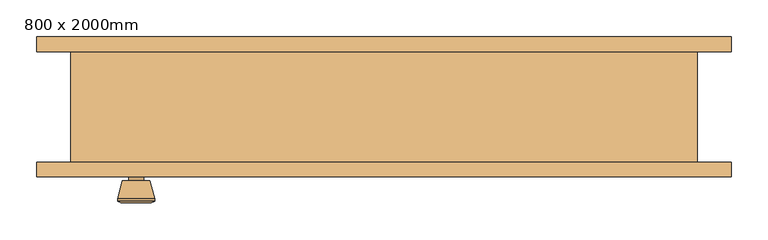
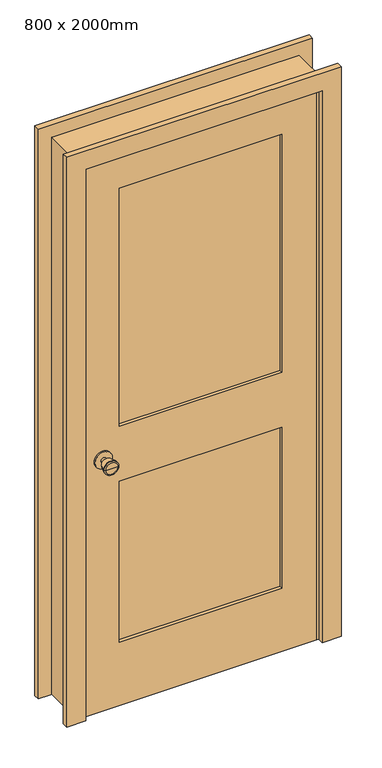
"""IFC4 building model written with IfcOpenShell, lengths in millimetres: door geometry, M_Dveře, vnitřní, jednokřídlé, dvě části, panel, dřevo : 800 x 2000mm."""

from ifc_helpers import new_model, si_unit, point, frame, frame_2d, origin, place, context, project, spatial, polyline, circle_curve, trimmed, segment, composite_curve, outline, extrude, faceted_brep, source, transform, mapped, element, save
from ifc_brep_helpers import plane_surface, cylinder_surface, revolved_surface, advanced_brep


def door_800_x_2000mm_7a4eaae7(model_context):
    return source(origin(), model_context, "Body", "SolidModel", [
        advanced_brep(
        [(-336.5, -30.825, 914.4), (-346.5, -30.825, 914.4), (-326.5, -30.825, 914.4), (-316.0241324, 18.175, 914.4), (-356.9758676, 18.175, 914.4), (-336.5, 18.175, 914.4), (-311.5, 16.3471319, 914.4), (-361.5, 16.3471319, 914.4), (-311.5, 12.8834537, 914.4), (-361.5, 12.8834537, 914.4), (-317.863764, -11.825, 914.4), (-355.136236, -11.825, 914.4), (-326.5, -11.825, 914.4), (-346.5, -11.825, 914.4)],
        [
            (0, 1),
            (1, 2, circle_curve(frame((-336.5, -30.825, 914.4), z_axis=(0.0, -1.0, 0.0), x_axis=(-1.0, 0.0, 0.0)), 10.0)),
            (2, 0),
            (2, 1, circle_curve(frame((-336.5, -30.825, 914.4), z_axis=(0.0, -1.0, 0.0), x_axis=(-1.0, 0.0, 0.0)), 10.0)),
            (3, 4, circle_curve(frame((-336.5, 18.175, 914.4), z_axis=(0.0, 1.0, 0.0), x_axis=(-1.0, 0.0, 0.0)), 20.4758676)),
            (4, 5),
            (5, 3),
            (4, 3, circle_curve(frame((-336.5, 18.175, 914.4), z_axis=(0.0, 1.0, 0.0), x_axis=(-1.0, 0.0, 0.0)), 20.4758676)),
            (6, 7, circle_curve(frame((-336.5, 16.3471319, 914.4), z_axis=(0.0, 1.0, 0.0), x_axis=(-1.0, 0.0, 0.0)), 25.0)),
            (7, 4),
            (3, 6),
            (7, 6, circle_curve(frame((-336.5, 16.3471319, 914.4), z_axis=(0.0, 1.0, 0.0), x_axis=(-1.0, 0.0, 0.0)), 25.0)),
            (8, 9, circle_curve(frame((-336.5, 12.8834537, 914.4), z_axis=(0.0, 1.0, 0.0), x_axis=(-1.0, 0.0, 0.0)), 25.0)),
            (9, 7),
            (6, 8),
            (9, 8, circle_curve(frame((-336.5, 12.8834537, 914.4), z_axis=(0.0, 1.0, 0.0), x_axis=(-1.0, 0.0, 0.0)), 25.0)),
            (10, 11, circle_curve(frame((-336.5, -11.825, 914.4), z_axis=(0.0, 1.0, 0.0), x_axis=(-1.0, 0.0, 0.0)), 18.636236)),
            (11, 9),
            (8, 10),
            (11, 10, circle_curve(frame((-336.5, -11.825, 914.4), z_axis=(0.0, 1.0, 0.0), x_axis=(-1.0, 0.0, 0.0)), 18.636236)),
            (12, 13, circle_curve(frame((-336.5, -11.825, 914.4), z_axis=(0.0, 1.0, 0.0), x_axis=(-1.0, 0.0, 0.0)), 10.0)),
            (13, 11),
            (10, 12),
            (13, 12, circle_curve(frame((-336.5, -11.825, 914.4), z_axis=(0.0, 1.0, 0.0), x_axis=(-1.0, 0.0, 0.0)), 10.0)),
            (1, 13),
            (12, 2),
        ],
        [
            plane_surface(frame((-336.5, -30.825, 914.4), z_axis=(0.0, -1.0, 0.0), x_axis=(-1.0, 0.0, 0.0))),
            plane_surface(frame((-336.5, 18.175, 914.4), z_axis=(0.0, 1.0, 0.0), x_axis=(-1.0, 0.0, 0.0))),
            revolved_surface(polyline([(-356.9758676, 18.175, 914.4), (-361.5, 16.3471319, 914.4)]), (-336.5, -30.825, 914.4), (0.0, -1.0, 0.0)),
            cylinder_surface(frame((-336.5, -30.825, 914.4), z_axis=(0.0, -1.0, 0.0), x_axis=(-1.0, 0.0, 0.0)), 25.0),
            revolved_surface(polyline([(-361.5, 12.8834537, 914.4), (-355.136236, -11.825, 914.4)]), (-336.5, -30.825, 914.4), (0.0, -1.0, 0.0)),
            plane_surface(frame((-336.5, -11.825, 914.4), z_axis=(0.0, -1.0, 0.0), x_axis=(-1.0, 0.0, 0.0))),
            cylinder_surface(frame((-336.5, -30.825, 914.4), z_axis=(0.0, -1.0, 0.0), x_axis=(-1.0, 0.0, 0.0)), 10.0),
        ],
        [
            (0, [[1, 2, 3]]),
            (0, [[-3, 4, -1]]),
            (1, [[5, 6, 7]]),
            (1, [[8, -7, -6]]),
            (2, [[9, 10, -5, 11]]),
            (2, [[12, -11, -8, -10]]),
            (3, [[13, 14, -9, 15]]),
            (3, [[16, -15, -12, -14]]),
            (4, [[17, 18, -13, 19]]),
            (4, [[20, -19, -16, -18]]),
            (5, [[21, 22, -17, 23]]),
            (5, [[24, -23, -20, -22]]),
            (6, [[-2, 25, -21, 26]]),
            (6, [[-4, -26, -24, -25]]),
        ],
    ),
        extrude(outline(composite_curve([segment(trimmed(circle_curve(frame_2d((914.4, -336.5)), 30.0), [point((914.4, -366.5))], [point((914.4, -306.5))], False, "CARTESIAN"), True, "CONTINUOUS"), segment(trimmed(circle_curve(frame_2d((914.4, -336.5)), 30.0), [point((914.4, -306.5))], [point((914.4, -366.5))], False, "CARTESIAN"), True, "CONTINUOUS")], self_intersect=False)), frame((0.0, -36.825, 0.0), z_axis=(0.0, 1.0, 0.0), x_axis=(0.0, 0.0, 1.0)), (0.0, 0.0, 1.0), 6.0),
        advanced_brep(
        [(-336.5, -77.825, 914.4), (-326.5, -77.825, 914.4), (-346.5, -77.825, 914.4), (-316.0241324, -126.825, 914.4), (-336.5, -126.825, 914.4), (-356.9758676, -126.825, 914.4), (-311.5, -124.9971319, 914.4), (-361.5, -124.9971319, 914.4), (-311.5, -121.5334537, 914.4), (-361.5, -121.5334537, 914.4), (-317.863764, -96.825, 914.4), (-355.136236, -96.825, 914.4), (-326.5, -96.825, 914.4), (-346.5, -96.825, 914.4)],
        [
            (0, 1),
            (1, 2, circle_curve(frame((-336.5, -77.825, 914.4), z_axis=(0.0, 1.0, 0.0), x_axis=(-1.0, 0.0, 0.0)), 10.0)),
            (2, 0),
            (2, 1, circle_curve(frame((-336.5, -77.825, 914.4), z_axis=(0.0, 1.0, 0.0), x_axis=(-1.0, 0.0, 0.0)), 10.0)),
            (3, 4),
            (4, 5),
            (5, 3, circle_curve(frame((-336.5, -126.825, 914.4), z_axis=(0.0, -1.0, 0.0), x_axis=(-1.0, 0.0, 0.0)), 20.4758676)),
            (3, 5, circle_curve(frame((-336.5, -126.825, 914.4), z_axis=(0.0, -1.0, 0.0), x_axis=(-1.0, 0.0, 0.0)), 20.4758676)),
            (6, 3),
            (5, 7),
            (7, 6, circle_curve(frame((-336.5, -124.9971319, 914.4), z_axis=(0.0, -1.0, 0.0), x_axis=(-1.0, 0.0, 0.0)), 25.0)),
            (6, 7, circle_curve(frame((-336.5, -124.9971319, 914.4), z_axis=(0.0, -1.0, 0.0), x_axis=(-1.0, 0.0, 0.0)), 25.0)),
            (8, 6),
            (7, 9),
            (9, 8, circle_curve(frame((-336.5, -121.5334537, 914.4), z_axis=(0.0, -1.0, 0.0), x_axis=(-1.0, 0.0, 0.0)), 25.0)),
            (8, 9, circle_curve(frame((-336.5, -121.5334537, 914.4), z_axis=(0.0, -1.0, 0.0), x_axis=(-1.0, 0.0, 0.0)), 25.0)),
            (10, 8),
            (9, 11),
            (11, 10, circle_curve(frame((-336.5, -96.825, 914.4), z_axis=(0.0, -1.0, 0.0), x_axis=(-1.0, 0.0, 0.0)), 18.636236)),
            (10, 11, circle_curve(frame((-336.5, -96.825, 914.4), z_axis=(0.0, -1.0, 0.0), x_axis=(-1.0, 0.0, 0.0)), 18.636236)),
            (12, 10),
            (11, 13),
            (13, 12, circle_curve(frame((-336.5, -96.825, 914.4), z_axis=(0.0, -1.0, 0.0), x_axis=(-1.0, 0.0, 0.0)), 10.0)),
            (12, 13, circle_curve(frame((-336.5, -96.825, 914.4), z_axis=(0.0, -1.0, 0.0), x_axis=(-1.0, 0.0, 0.0)), 10.0)),
            (1, 12),
            (13, 2),
        ],
        [
            plane_surface(frame((-336.5, -77.825, 914.4), z_axis=(0.0, 1.0, 0.0), x_axis=(-1.0, 0.0, 0.0))),
            plane_surface(frame((-336.5, -126.825, 914.4), z_axis=(0.0, -1.0, 0.0), x_axis=(-1.0, 0.0, 0.0))),
            revolved_surface(polyline([(-356.9758676, -126.825, 914.4), (-361.5, -124.9971319, 914.4)]), (-336.5, -77.825, 914.4), (0.0, 1.0, 0.0)),
            cylinder_surface(frame((-336.5, -77.825, 914.4), z_axis=(0.0, 1.0, 0.0), x_axis=(-1.0, 0.0, 0.0)), 25.0),
            revolved_surface(polyline([(-361.5, -121.5334537, 914.4), (-355.136236, -96.825, 914.4)]), (-336.5, -77.825, 914.4), (0.0, 1.0, 0.0)),
            plane_surface(frame((-336.5, -96.825, 914.4), z_axis=(0.0, 1.0, 0.0), x_axis=(-1.0, 0.0, 0.0))),
            cylinder_surface(frame((-336.5, -77.825, 914.4), z_axis=(0.0, 1.0, 0.0), x_axis=(-1.0, 0.0, 0.0)), 10.0),
        ],
        [
            (0, [[1, 2, 3]]),
            (0, [[-3, 4, -1]]),
            (1, [[5, 6, 7]]),
            (1, [[-6, -5, 8]]),
            (2, [[9, -7, 10, 11]]),
            (2, [[-10, -8, -9, 12]]),
            (3, [[13, -11, 14, 15]]),
            (3, [[-14, -12, -13, 16]]),
            (4, [[17, -15, 18, 19]]),
            (4, [[-18, -16, -17, 20]]),
            (5, [[21, -19, 22, 23]]),
            (5, [[-22, -20, -21, 24]]),
            (6, [[25, -23, 26, -2]]),
            (6, [[-26, -24, -25, -4]]),
        ],
    ),
        extrude(outline(composite_curve([segment(trimmed(circle_curve(frame_2d((914.4, -336.5)), 30.0), [point((914.4, -366.5))], [point((914.4, -306.5))], False, "CARTESIAN"), True, "CONTINUOUS"), segment(trimmed(circle_curve(frame_2d((914.4, -336.5)), 30.0), [point((914.4, -306.5))], [point((914.4, -366.5))], False, "CARTESIAN"), True, "CONTINUOUS")], self_intersect=False)), frame((0.0, -77.825, 0.0), z_axis=(0.0, 1.0, 0.0), x_axis=(0.0, 0.0, 1.0)), (0.0, 0.0, 1.0), 6.0),
        faceted_brep([(425.0, -71.825, 0.0), (400.0, -71.825, 0.0), (400.0, -36.825, 0.0), (387.3, -36.825, 0.0), (387.3, -1.9, 0.0), (400.0, -1.9, 0.0), (400.0, 78.175, 0.0), (425.0, 78.175, 0.0), (425.0, 78.175, 2025.0), (425.0, -71.825, 2025.0), (400.0, 78.175, 2000.0), (-400.0, 78.175, 2000.0), (-400.0, 78.175, 0.0), (-425.0, 78.175, 0.0), (-425.0, 78.175, 2025.0), (400.0, -1.9, 2000.0), (387.3, -1.9, 1987.3), (-387.3, -1.9, 1987.3), (-387.3, -1.9, 0.0), (-400.0, -1.9, 0.0), (-400.0, -1.9, 2000.0), (387.3, -36.825, 1987.3), (400.0, -36.825, 2000.0), (-400.0, -36.825, 2000.0), (-400.0, -36.825, 0.0), (-387.3, -36.825, 0.0), (-387.3, -36.825, 1987.3), (400.0, -71.825, 2000.0), (-425.0, -71.825, 2025.0), (-425.0, -71.825, 0.0), (-400.0, -71.825, 0.0), (-400.0, -71.825, 2000.0)], [[[0, 1, 2, 3, 4, 5, 6, 7]], [[7, 8, 9, 0]], [[6, 10, 11, 12, 13, 14, 8, 7]], [[5, 15, 10, 6]], [[4, 16, 17, 18, 19, 20, 15, 5]], [[3, 21, 16, 4]], [[2, 22, 23, 24, 25, 26, 21, 3]], [[1, 27, 22, 2]], [[0, 9, 28, 29, 30, 31, 27, 1]], [[8, 14, 28, 9]], [[15, 20, 11, 10]], [[21, 26, 17, 16]], [[27, 31, 23, 22]], [[29, 13, 12, 19, 18, 25, 24, 30]], [[14, 13, 29, 28]], [[20, 19, 12, 11]], [[26, 25, 18, 17]], [[31, 30, 24, 23]]]),
        extrude(outline(polyline([(2000.0, -400.0), (0.0, -400.0), (0.0, 400.0), (2000.0, 400.0), (2000.0, -400.0)]), holes=[polyline([(1880.0, -280.0), (1880.0, 280.0), (1014.4, 280.0), (1014.4, -280.0), (1880.0, -280.0)]), polyline([(814.4, -280.0), (814.4, 280.0), (230.0, 280.0), (230.0, -280.0), (814.4, -280.0)])]), frame((0.0, -71.825, 0.0), z_axis=(0.0, 1.0, 0.0), x_axis=(0.0, 0.0, 1.0)), (0.0, 0.0, 1.0), 35.0),
        extrude(outline(polyline([(280.0, -48.4916667), (280.0, -60.1583333), (-280.0, -60.1583333), (-280.0, -48.4916667), (280.0, -48.4916667)])), frame((0.0, 0.0, 1014.4), z_axis=(0.0, 0.0, 1.0), x_axis=(1.0, 0.0, 0.0)), (0.0, 0.0, 1.0), 865.6),
        extrude(outline(polyline([(280.0, -48.4916667), (280.0, -60.1583333), (-280.0, -60.1583333), (-280.0, -48.4916667), (280.0, -48.4916667)])), frame((0.0, 0.0, 230.0), z_axis=(0.0, 0.0, 1.0), x_axis=(1.0, 0.0, 0.0)), (0.0, 0.0, 1.0), 584.4),
        extrude(outline(polyline([(0.0, 471.35), (2071.35, 471.35), (2071.35, -471.35), (0.0, -471.35), (0.0, -406.35), (2006.35, -406.35), (2006.35, 406.35), (0.0, 406.35), (0.0, 471.35)])), frame((0.0, -91.825, 0.0), z_axis=(0.0, 1.0, 0.0), x_axis=(0.0, 0.0, 1.0)), (0.0, 0.0, 1.0), 20.0),
        extrude(outline(polyline([(0.0, 471.35), (2071.35, 471.35), (2071.35, -471.35), (0.0, -471.35), (0.0, -406.35), (2006.35, -406.35), (2006.35, 406.35), (0.0, 406.35), (0.0, 471.35)])), frame((0.0, 78.175, 0.0), z_axis=(0.0, 1.0, 0.0), x_axis=(0.0, 0.0, 1.0)), (0.0, 0.0, 1.0), 20.0),
    ])


if __name__ == "__main__":
    model = new_model("IFC4")
    model_context = context("Model", 3, world=origin())
    ifc_project = project(units=[si_unit("LENGTHUNIT", "METRE", prefix="MILLI")], contexts=[model_context])
    site = spatial("IfcSite", under=ifc_project)
    building = spatial("IfcBuilding", under=site)
    placement = place(None, origin())
    door_800_x_2000mm_shape = door_800_x_2000mm_7a4eaae7(model_context)
    element("IfcDoor", 1, ObjectType="M_Dveře, vnitřní, jednokřídlé, dvě části, panel, dřevo : 800 x 2000mm", at=placement, inside=building, context=model_context, shape_type="MappedRepresentation", body=[
        mapped(door_800_x_2000mm_shape, transform((0.0, 0.0, 0.0), x_axis=(1.0, 0.0, 0.0), y_axis=(0.0, 1.0, 0.0), z_axis=(0.0, 0.0, 1.0))),
    ])
    save(model, "model.ifc")
